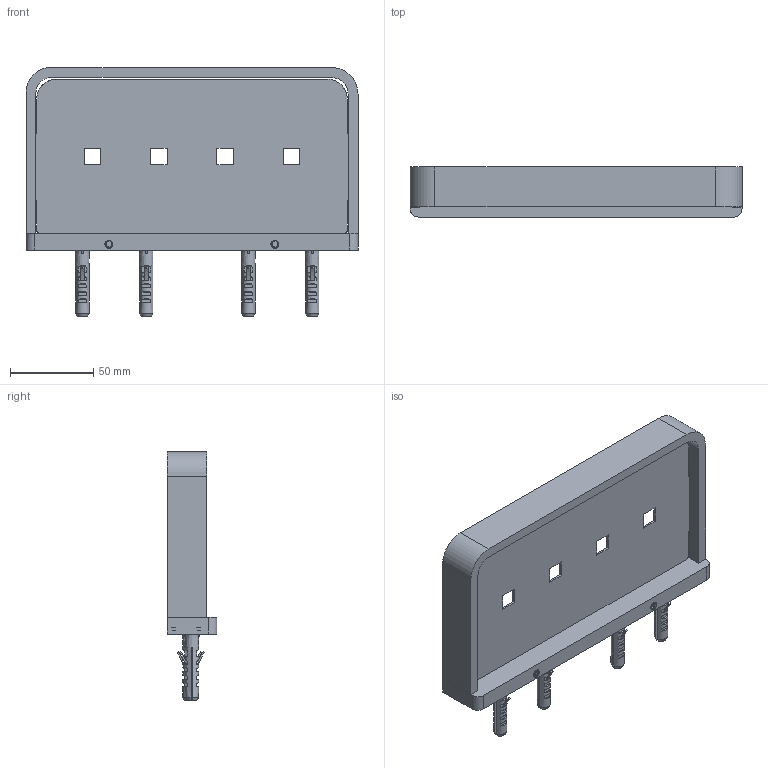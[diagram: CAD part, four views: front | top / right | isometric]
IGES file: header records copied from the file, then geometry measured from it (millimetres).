
Global section: file name: 81d5ce1b-40d9-4055-80df-e146b686e00c.zip; native system: unknown; preprocessor: unknown; author: unknown; organization: unknown; date: 20200108.080743; units: millimetre
Bounding box: 200 x 30 x 150 mm (x, y, z)
Volume: 113388.2 mm3; surface area: 98698.4 mm2
Topology: 19 solids, 19 shells, 873 faces, 2302 edges, 1508 vertices
Faces by surface type: bspline 873
